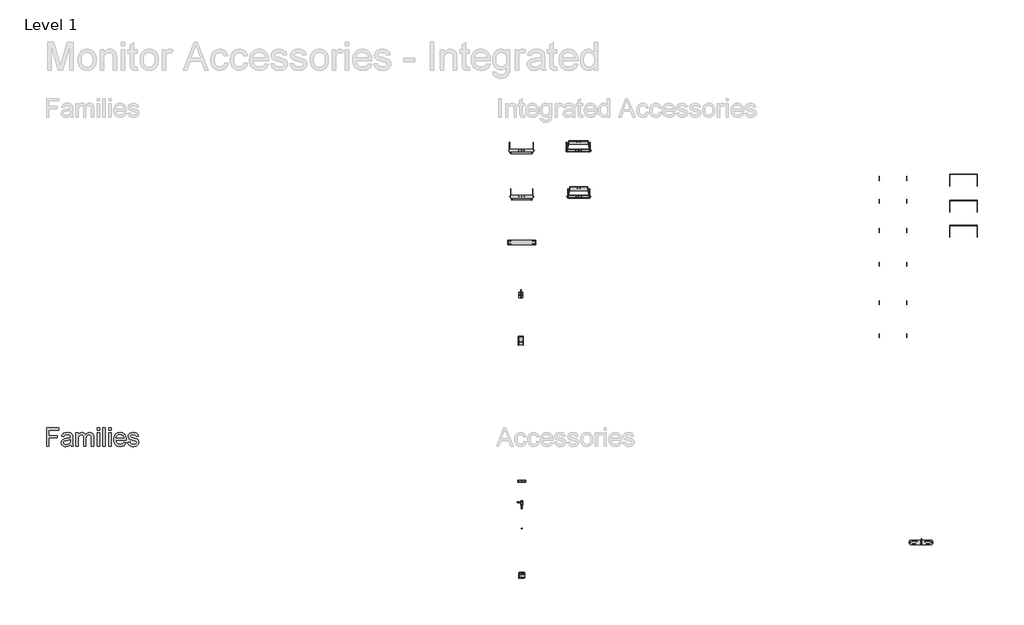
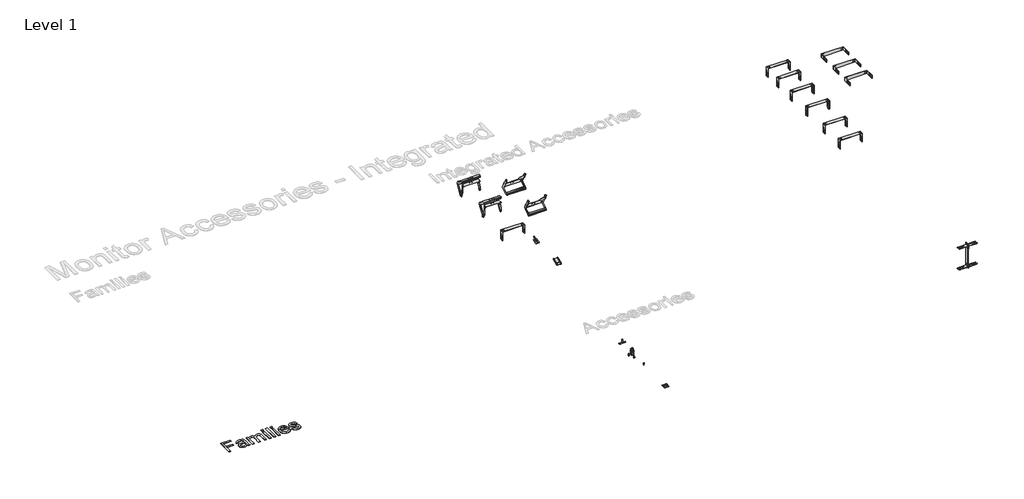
# One storey, part 1 of 7: 25 proxies.
"""IFC4 building model written with IfcOpenShell, lengths in millimetres."""

from ifc_helpers import new_model, si_unit, origin, origin_with_axes, place, context, project, spatial, polyline, outline, extrude, transform, mapped, element, save
from components import communication_devices_ba55d804, communication_devices_8cd92982, communication_devices_83826e61, communication_devices_d38580d4, communication_devices_43ad5a2a, communication_devices_95b38b16, communication_devices_d8b0c4f8, max_bracket_connector_1a2b8a25, max_bracket_connector_f8e35c88, max_horizontal_bracket_4bbb9378, max_horizontal_bracket_2c0e1940, pipe_clamp_9ec87b98, tv_spigot_w_fixing_plate_9e7657d5

model = new_model("IFC4")

# Units and contexts
model_context = context("Model", 3, world=origin())
ifc_project = project(units=[si_unit("LENGTHUNIT", "METRE", prefix="MILLI")], contexts=[model_context])

# Site, building, storey
site = spatial("IfcSite", under=ifc_project)
building = spatial("IfcBuilding", under=site)
storey = spatial("IfcBuildingStorey", under=building, Name="Level 1", Elevation=0.0)

# Proxies
placement = place(None, origin())
communication_devices_shape = communication_devices_ba55d804(model_context)
element("IfcBuildingElementProxy", 1, Name="d&b Flying Pin : Flying Pin", ObjectType="d&b Flying Pin : Flying Pin", at=placement, inside=storey, context=model_context, shape_type="MappedRepresentation", body=[
    mapped(communication_devices_shape, transform((-10953.7754647, 2106.5012301, 0.0), x_axis=(1.0, 0.0, 0.0), y_axis=(0.0, 1.0, 0.0), z_axis=(0.0, 0.0, 1.0))),
])
communication_devices_2_shape = communication_devices_8cd92982(model_context)
element("IfcBuildingElementProxy", 2, Name="d&b M-Series M4 Flying Bracket : M4 Flying Bracket", ObjectType="d&b M-Series M4 Flying Bracket : M4 Flying Bracket", at=placement, inside=storey, context=model_context, shape_type="MappedRepresentation", body=[
    mapped(communication_devices_2_shape, transform((-9749.2996804, 10140.2965291, -370.000001), x_axis=(1.0, 0.0, 0.0), y_axis=(0.0, 1.0, 0.0), z_axis=(0.0, 0.0, 1.0))),
])
communication_devices_3_shape = communication_devices_83826e61(model_context)
element("IfcBuildingElementProxy", 3, Name="d&b M-Series M4 Flying Bracket : M4 Flying Bracket", ObjectType="d&b M-Series M4 Flying Bracket : M4 Flying Bracket", at=placement, inside=storey, context=model_context, shape_type="MappedRepresentation", body=[
    mapped(communication_devices_3_shape, transform((-10961.4317147, 10140.2965291, -370.000001), x_axis=(1.0, 0.0, 0.0), y_axis=(0.0, 1.0, 0.0), z_axis=(0.0, 0.0, 1.0))),
])
communication_devices_4_shape = communication_devices_d38580d4(model_context)
element("IfcBuildingElementProxy", 4, Name="d&b M-Series M6 Flying Bracket : M6 Flying Bracket", ObjectType="d&b M-Series M6 Flying Bracket : M6 Flying Bracket", at=placement, inside=storey, context=model_context, shape_type="MappedRepresentation", body=[
    mapped(communication_devices_4_shape, transform((-9741.6434304, 9159.0465291, -370.000001), x_axis=(1.0, 0.0, 0.0), y_axis=(0.0, 1.0, 0.0), z_axis=(0.0, 0.0, 1.0))),
])
communication_devices_5_shape = communication_devices_43ad5a2a(model_context)
element("IfcBuildingElementProxy", 5, Name="d&b M-Series M6 Flying Bracket : M6 Flying Bracket", ObjectType="d&b M-Series M6 Flying Bracket : M6 Flying Bracket", at=placement, inside=storey, context=model_context, shape_type="MappedRepresentation", body=[
    mapped(communication_devices_5_shape, transform((-10953.7754647, 9159.0465291, -370.000001), x_axis=(1.0, 0.0, 0.0), y_axis=(0.0, 1.0, 0.0), z_axis=(0.0, 0.0, 1.0))),
])
communication_devices_6_shape = communication_devices_95b38b16(model_context)
element("IfcBuildingElementProxy", 6, Name="d&b M-Series Flying Adapter 02 : Flying Adapter 02", ObjectType="d&b M-Series Flying Adapter 02 : Flying Adapter 02", at=placement, inside=storey, context=model_context, shape_type="MappedRepresentation", body=[
    mapped(communication_devices_6_shape, transform((-10971.1156161, 7070.5731969, 483.3264101), x_axis=(-1.0, 0.0, 0.0), y_axis=(0.0, -0.9396926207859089, -0.3420201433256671), z_axis=(0.0, -0.3420201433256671, 0.9396926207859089))),
])
communication_devices_7_shape = communication_devices_d8b0c4f8(model_context)
element("IfcBuildingElementProxy", 7, Name="d&b M-Series Flying Adapter 03 : Flying Adapter 03", ObjectType="d&b M-Series Flying Adapter 03 : Flying Adapter 03", at=placement, inside=storey, context=model_context, shape_type="MappedRepresentation", body=[
    mapped(communication_devices_7_shape, transform((-10971.1156161, 6070.5731969, 483.3264101), x_axis=(-1.0, 0.0, 0.0), y_axis=(0.0, -0.9396926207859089, -0.3420201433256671), z_axis=(0.0, -0.3420201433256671, 0.9396926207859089))),
])
element("IfcBuildingElementProxy", 8, Name="400mm Arial", ObjectType="400mm Arial", at=placement, inside=storey, context=model_context, shape_type="SweptSolid", body=[
    extrude(outline(polyline([(-21056.720891, 3851.3054836), (-21056.720891, 4243.0630593), (-20793.5087698, 4243.0630593), (-20793.5087698, 4194.0933624), (-21007.7511941, 4194.0933624), (-21007.7511941, 4077.7903321), (-20824.1148304, 4077.7903321), (-20824.1148304, 4028.8206351), (-21007.7511941, 4028.8206351), (-21007.7511941, 3851.3054836), (-21056.720891, 3851.3054836)])), origin_with_axes(), (0.0, 0.0, 1.0), 5.0),
    extrude(outline(polyline([(-20548.660285, 3888.0327563), (-20572.0571836, 3867.97144), (-20596.1475009, 3854.8443093), (-20621.4811893, 3847.5992809), (-20648.6082016, 3845.1842715), (-20670.4120309, 3846.6368638), (-20689.5318522, 3850.9946408), (-20705.9676654, 3858.2576024), (-20719.7194706, 3868.4257487), (-20730.5780466, 3880.8534831), (-20738.3341723, 3894.895209), (-20742.9878477, 3910.5509263), (-20744.5390729, 3927.8206351), (-20742.1957963, 3948.1210612), (-20735.1659668, 3966.5564305), (-20724.3223352, 3982.3376805), (-20710.5376524, 3994.6757487), (-20676.2493001, 4010.7439305), (-20633.879035, 4018.1085139), (-20583.8094327, 4025.855673), (-20548.9472168, 4034.9418472), (-20548.660285, 4045.8452563), (-20552.0317338, 4067.6998965), (-20562.1460804, 4081.9986654), (-20584.7658721, 4092.6151427), (-20616.2805501, 4096.1539684), (-20645.4519516, 4093.7987364), (-20665.8241107, 4086.7330404), (-20679.7163929, 4073.6656872), (-20689.4481638, 4053.3054836), (-20738.4178607, 4059.4266957), (-20729.9175056, 4086.2069987), (-20717.2327282, 4107.2486654), (-20699.1799346, 4123.3407582), (-20674.5755312, 4135.2723396), (-20644.4835568, 4142.660834), (-20609.9680501, 4145.1236654), (-20576.8632916, 4142.9477658), (-20550.6209857, 4136.4200669), (-20530.8346458, 4126.6046076), (-20517.097785, 4114.5654268), (-20507.9876997, 4099.6808387), (-20502.0816865, 4081.3291578), (-20499.690588, 4038.480673), (-20499.690588, 3977.5554836), (-20497.2038456, 3892.4801995), (-20487.4481638, 3851.3054836), (-20536.4178607, 3851.3054836), (-20544.2606638, 3868.3301048), (-20548.660285, 3888.0327563)]), holes=[polyline([(-20548.660285, 3985.9721502), (-20581.5618001, 3977.8185044), (-20627.6621789, 3970.9560518), (-20669.7933342, 3963.0176048), (-20680.7565208, 3957.5898112), (-20688.8743001, 3950.105673), (-20693.8956069, 3941.1390536), (-20695.5693759, 3931.2638169), (-20691.9229507, 3916.7020271), (-20680.9836751, 3904.7704457), (-20662.990659, 3896.8080877), (-20638.1830122, 3894.1539684), (-20611.8809289, 3897.0830641), (-20588.6394516, 3905.870351), (-20569.7975956, 3918.8181493), (-20556.6943759, 3934.228779), (-20550.8840066, 3950.105673), (-20548.9472168, 3972.103779), (-20548.660285, 3985.9721502)])]), origin_with_axes(), (0.0, 0.0, 1.0), 5.0),
    extrude(outline(polyline([(-20432.3572547, 3851.3054836), (-20432.3572547, 4139.0024533), (-20383.3875577, 4139.0024533), (-20383.3875577, 4091.6587033), (-20368.658391, 4113.405744), (-20349.720891, 4130.4423207), (-20327.2206543, 4141.4533292), (-20301.8032774, 4145.1236654), (-20274.5686657, 4141.3815963), (-20252.7379365, 4130.1553889), (-20236.4306448, 4112.1862838), (-20225.7663456, 4088.2155215), (-20207.9167954, 4113.1128344), (-20187.5565918, 4130.8966294), (-20164.6857348, 4141.5669064), (-20139.3042244, 4145.1236654), (-20119.7002057, 4143.6441732), (-20102.4932632, 4139.2056966), (-20087.683397, 4131.8082357), (-20075.2706069, 4121.4517904), (-20065.4581365, 4108.0168058), (-20058.4492291, 4091.3837269), (-20054.2438846, 4071.5525539), (-20052.8421032, 4048.5232866), (-20052.8421032, 3851.3054836), (-20101.8118001, 3851.3054836), (-20101.8118001, 4027.4816199), (-20106.3548872, 4068.369404), (-20112.7391202, 4079.6434334), (-20122.8056448, 4088.5024533), (-20135.7534431, 4094.2410896), (-20150.7814971, 4096.1539684), (-20177.3107348, 4091.2522165), (-20198.9382206, 4076.5469608), (-20207.3279874, 4065.2669537), (-20213.320678, 4051.03394), (-20218.1148304, 4013.7088927), (-20218.1148304, 3851.3054836), (-20267.0845274, 3851.3054836), (-20267.0845274, 4032.9333245), (-20269.9179791, 4060.6222449), (-20278.4183342, 4080.3727184), (-20293.3746552, 4092.2086559), (-20315.5760047, 4096.1539684), (-20334.4417717, 4093.5237601), (-20351.8250577, 4085.6331351), (-20366.1716486, 4072.6733813), (-20375.9273304, 4054.8357866), (-20381.5225009, 4030.0879173), (-20383.3875577, 3996.3973396), (-20383.3875577, 3851.3054836), (-20432.3572547, 3851.3054836)])), origin_with_axes(), (0.0, 0.0, 1.0), 5.0),
    extrude(outline(polyline([(-19979.3875577, 3851.3054836), (-19979.3875577, 4139.0024533), (-19930.4178607, 4139.0024533), (-19930.4178607, 3851.3054836), (-19979.3875577, 3851.3054836)])), origin_with_axes(), (0.0, 0.0, 1.0), 5.0),
    extrude(outline(polyline([(-19979.3875577, 4194.0933624), (-19979.3875577, 4243.0630593), (-19930.4178607, 4243.0630593), (-19930.4178607, 4194.0933624), (-19979.3875577, 4194.0933624)])), origin_with_axes(), (0.0, 0.0, 1.0), 5.0),
    extrude(outline(polyline([(-19856.9633153, 3851.3054836), (-19856.9633153, 4243.0630593), (-19807.9936183, 4243.0630593), (-19807.9936183, 3851.3054836), (-19856.9633153, 3851.3054836)])), origin_with_axes(), (0.0, 0.0, 1.0), 5.0),
    extrude(outline(polyline([(-19734.5390729, 3851.3054836), (-19734.5390729, 4139.0024533), (-19685.5693759, 4139.0024533), (-19685.5693759, 3851.3054836), (-19734.5390729, 3851.3054836)])), origin_with_axes(), (0.0, 0.0, 1.0), 5.0),
    extrude(outline(polyline([(-19734.5390729, 4194.0933624), (-19734.5390729, 4243.0630593), (-19685.5693759, 4243.0630593), (-19685.5693759, 4194.0933624), (-19734.5390729, 4194.0933624)])), origin_with_axes(), (0.0, 0.0, 1.0), 5.0),
    extrude(outline(polyline([(-19410.6886941, 3937.0024533), (-19362.6754365, 3930.8812411), (-19370.0370309, 3911.6508316), (-19379.975034, 3894.7039211), (-19392.4894457, 3880.0405096), (-19407.580266, 3867.6605972), (-19425.0920736, 3857.8272047), (-19444.8694469, 3850.8033529), (-19491.220891, 3845.1842715), (-19521.605775, 3847.6082475), (-19548.6789876, 3854.8801758), (-19572.4405288, 3867.0000563), (-19592.8903986, 3883.9678889), (-19609.3351784, 3905.3114317), (-19621.0814497, 3930.5584429), (-19628.1292125, 3959.7089223), (-19630.4784668, 3992.7628699), (-19628.1053015, 4026.937645), (-19620.9858058, 4057.0595082), (-19609.1199796, 4083.1284594), (-19592.5078229, 4105.1444987), (-19572.1117528, 4122.6353841), (-19548.8941865, 4135.1288737), (-19522.855124, 4142.6249675), (-19493.9945653, 4145.1236654), (-19466.0635461, 4142.6309452), (-19440.8045795, 4135.1527847), (-19418.2176654, 4122.6891839), (-19398.3028039, 4105.2401427), (-19382.0463231, 4083.2719253), (-19370.4345511, 4057.2507961), (-19363.4674879, 4027.1767549), (-19361.1451335, 3993.0498018), (-19361.4320653, 3979.8509381), (-19581.5087698, 3979.8509381), (-19578.6723292, 3960.3096858), (-19573.0323257, 3943.1953983), (-19564.5887592, 3928.5080759), (-19553.3416297, 3916.2477184), (-19524.9234242, 3899.6774059), (-19490.2644516, 3894.1539684), (-19464.2014782, 3896.7124438), (-19442.2511941, 3904.3878699), (-19424.4135994, 3917.6584665), (-19410.6886941, 3937.0024533)]), holes=[polyline([(-19581.5087698, 4028.8206351), (-19410.1148304, 4028.8206351), (-19416.7381732, 4054.6923207), (-19429.721838, 4073.199423), (-19443.076123, 4083.2420366), (-19458.2715539, 4090.4153321), (-19494.1858532, 4096.1539684), (-19527.1949677, 4091.5750148), (-19554.4893569, 4077.838154), (-19573.4627234, 4056.4258671), (-19581.5087698, 4028.8206351)])]), origin_with_axes(), (0.0, 0.0, 1.0), 5.0),
    extrude(outline(polyline([(-19330.5390729, 3937.0024533), (-19281.5693759, 3943.1236654), (-19273.8461278, 3922.1776427), (-19258.9017622, 3906.7789684), (-19236.6406354, 3897.3102184), (-19206.9671032, 3894.1539684), (-19177.6522357, 3897.0471976), (-19157.0409668, 3905.7268851), (-19144.8463645, 3918.3040631), (-19140.7814971, 3932.8897639), (-19144.8702755, 3945.371298), (-19157.1366107, 3954.8878699), (-19207.5409668, 3968.8518851), (-19281.2824441, 3992.8106919), (-19299.9449677, 4004.8498728), (-19313.4666297, 4020.7865442), (-19321.680053, 4039.6044893), (-19324.4178607, 4060.2874911), (-19322.2180501, 4079.2608576), (-19315.6186183, 4096.775654), (-19305.2173399, 4112.1384618), (-19291.6119895, 4124.6558624), (-19260.4798872, 4139.1459192), (-19218.3487319, 4145.1236654), (-19186.4753891, 4142.7206114), (-19158.7625577, 4135.5114495), (-19136.4775198, 4124.2015536), (-19120.8875577, 4109.496298), (-19110.5580122, 4090.3077326), (-19104.0542244, 4065.5479078), (-19153.0239213, 4059.4266957), (-19159.2049109, 4074.8373254), (-19171.4353797, 4086.4461086), (-19189.8348825, 4093.7270035), (-19214.5229744, 4096.1539684), (-19242.6422925, 4093.8346029), (-19261.3885047, 4086.8765063), (-19271.933249, 4076.8338927), (-19275.4481638, 4065.260976), (-19269.6138835, 4051.010029), (-19251.345891, 4040.2022639), (-19209.1669138, 4029.7770745), (-19137.2904933, 4006.7268851), (-19118.3051713, 3995.7039211), (-19103.9107585, 3980.6160896), (-19094.8365397, 3961.4155688), (-19091.8118001, 3938.0545366), (-19095.3625814, 3913.9044419), (-19106.0149251, 3891.1890063), (-19123.3623446, 3871.6895982), (-19146.9983532, 3857.1875858), (-19175.5480691, 3848.1851), (-19207.6366107, 3845.1842715), (-19233.9924938, 3846.630886), (-19257.0127944, 3850.9707298), (-19276.6975127, 3858.2038027), (-19293.0466486, 3868.3301048), (-19306.4009336, 3881.3018141), (-19317.1010994, 3897.0711086), (-19325.1471458, 3915.6379883), (-19330.5390729, 3937.0024533)])), origin_with_axes(), (0.0, 0.0, 1.0), 5.0),
])
max_bracket_connector_shape = max_bracket_connector_1a2b8a25(model_context)
element("IfcBuildingElementProxy", 9, Name="d&b M-Series MAX Bracket Connector : MAX Bracket Connector", ObjectType="d&b M-Series MAX Bracket Connector : MAX Bracket Connector", at=placement, inside=storey, context=model_context, shape_type="MappedRepresentation", body=[
    mapped(max_bracket_connector_shape, transform((-10879.612112, 1106.5012301, 0.0), x_axis=(1.0, 0.0, 0.0), y_axis=(0.0, 1.0, 0.0), z_axis=(0.0, 0.0, 1.0))),
])
element("IfcBuildingElementProxy", 10, Name="d&b M-Series MAX Bracket Connector : MAX Bracket Connector", ObjectType="d&b M-Series MAX Bracket Connector : MAX Bracket Connector", at=placement, inside=storey, context=model_context, shape_type="MappedRepresentation", body=[
    mapped(max_bracket_connector_shape, transform((-2455.5070128, 1823.3924179, 485.3366473), x_axis=(0.0, 0.0, -1.0), y_axis=(0.0, 1.0, 0.0), z_axis=(1.0, 0.0, 0.0))),
])
max_bracket_connector_2_shape = max_bracket_connector_f8e35c88(model_context)
element("IfcBuildingElementProxy", 11, Name="d&b M-Series MAX Bracket Connector : MAX Bracket Connector", ObjectType="d&b M-Series MAX Bracket Connector : MAX Bracket Connector", at=placement, inside=storey, context=model_context, shape_type="MappedRepresentation", body=[
    mapped(max_bracket_connector_2_shape, transform((-2455.5070128, 1823.3924179, 94.6633527), x_axis=(0.0, 0.0, 1.0), y_axis=(0.0, -1.0, 0.0), z_axis=(1.0, 0.0, 0.0))),
])
max_horizontal_bracket_shape = max_horizontal_bracket_4bbb9378(model_context)
element("IfcBuildingElementProxy", 12, Name="d&b M-Series MAX Horizontal Bracket : MAX Horizontal Bracket", ObjectType="d&b M-Series MAX Horizontal Bracket : MAX Horizontal Bracket", at=placement, inside=storey, context=model_context, shape_type="MappedRepresentation", body=[
    mapped(max_horizontal_bracket_shape, transform((-2985.1139515, 9539.3567036, 992.3889388), x_axis=(1.0, 0.0, 0.0), y_axis=(0.0, 1.0, 0.0), z_axis=(0.0, 0.0, 1.0))),
])
element("IfcBuildingElementProxy", 13, Name="d&b M-Series MAX Horizontal Bracket : MAX Horizontal Bracket", ObjectType="d&b M-Series MAX Horizontal Bracket : MAX Horizontal Bracket", at=placement, inside=storey, context=model_context, shape_type="MappedRepresentation", body=[
    mapped(max_horizontal_bracket_shape, transform((-2985.1139515, 9055.1948325, 992.3889388), x_axis=(1.0, 0.0, 0.0), y_axis=(0.0, 1.0, 0.0), z_axis=(0.0, 0.0, 1.0))),
])
element("IfcBuildingElementProxy", 14, Name="d&b M-Series MAX Horizontal Bracket : MAX Horizontal Bracket", ObjectType="d&b M-Series MAX Horizontal Bracket : MAX Horizontal Bracket", at=placement, inside=storey, context=model_context, shape_type="MappedRepresentation", body=[
    mapped(max_horizontal_bracket_shape, transform((-2985.1139515, 8430.6015994, 992.3889388), x_axis=(1.0, 0.0, 0.0), y_axis=(0.0, 1.0, 0.0), z_axis=(0.0, 0.0, 1.0))),
])
element("IfcBuildingElementProxy", 15, Name="d&b M-Series MAX Horizontal Bracket : MAX Horizontal Bracket", ObjectType="d&b M-Series MAX Horizontal Bracket : MAX Horizontal Bracket", at=placement, inside=storey, context=model_context, shape_type="MappedRepresentation", body=[
    mapped(max_horizontal_bracket_shape, transform((-2985.1139515, 7713.8177505, 992.3889388), x_axis=(1.0, 0.0, 0.0), y_axis=(0.0, 1.0, 0.0), z_axis=(0.0, 0.0, 1.0))),
])
element("IfcBuildingElementProxy", 16, Name="d&b M-Series MAX Horizontal Bracket : MAX Horizontal Bracket", ObjectType="d&b M-Series MAX Horizontal Bracket : MAX Horizontal Bracket", at=placement, inside=storey, context=model_context, shape_type="MappedRepresentation", body=[
    mapped(max_horizontal_bracket_shape, transform((-2985.1139515, 6897.6477789, 992.3889388), x_axis=(1.0, 0.0, 0.0), y_axis=(0.0, 1.0, 0.0), z_axis=(0.0, 0.0, 1.0))),
])
element("IfcBuildingElementProxy", 17, Name="d&b M-Series MAX Horizontal Bracket : MAX Horizontal Bracket", ObjectType="d&b M-Series MAX Horizontal Bracket : MAX Horizontal Bracket", at=placement, inside=storey, context=model_context, shape_type="MappedRepresentation", body=[
    mapped(max_horizontal_bracket_shape, transform((-10879.612112, 8178.2274344, -41.5533632), x_axis=(1.0, 0.0, 0.0), y_axis=(0.0, 1.0, 0.0), z_axis=(0.0, 0.0, 1.0))),
])
element("IfcBuildingElementProxy", 18, Name="d&b M-Series MAX Horizontal Bracket : MAX Horizontal Bracket", ObjectType="d&b M-Series MAX Horizontal Bracket : MAX Horizontal Bracket", at=placement, inside=storey, context=model_context, shape_type="MappedRepresentation", body=[
    mapped(max_horizontal_bracket_shape, transform((-2985.1139515, 6192.5966183, 992.3889388), x_axis=(1.0, 0.0, 0.0), y_axis=(0.0, 1.0, 0.0), z_axis=(0.0, 0.0, 1.0))),
])
element("IfcBuildingElementProxy", 19, Name="d&b M-Series MAX Horizontal Bracket : MAX Horizontal Bracket", ObjectType="d&b M-Series MAX Horizontal Bracket : MAX Horizontal Bracket", at=placement, inside=storey, context=model_context, shape_type="MappedRepresentation", body=[
    mapped(max_horizontal_bracket_shape, transform((-2236.2845566, 1800.8534239, 364.1633527), x_axis=(0.0, 0.0, 1.0), y_axis=(0.0, 1.0, 0.0), z_axis=(-1.0, 0.0, 0.0))),
])
max_horizontal_bracket_2_shape = max_horizontal_bracket_2c0e1940(model_context)
element("IfcBuildingElementProxy", 20, Name="d&b M-Series MAX Horizontal Bracket : MAX Horizontal Bracket", ObjectType="d&b M-Series MAX Horizontal Bracket : MAX Horizontal Bracket", at=placement, inside=storey, context=model_context, shape_type="MappedRepresentation", body=[
    mapped(max_horizontal_bracket_2_shape, transform((-2694.729469, 1800.8534239, 364.1633527), x_axis=(0.0, 0.0, 1.0), y_axis=(0.0, -1.0, 0.0), z_axis=(1.0, 0.0, 0.0))),
])
element("IfcBuildingElementProxy", 21, Name="d&b M-Series MAX Horizontal Bracket : MAX Horizontal Bracket", ObjectType="d&b M-Series MAX Horizontal Bracket : MAX Horizontal Bracket", at=placement, inside=storey, context=model_context, shape_type="MappedRepresentation", body=[
    mapped(max_horizontal_bracket_2_shape, transform((-1633.4406569, 9401.9569788, 1001.6135554), x_axis=(-1.0, 0.0, 0.0), y_axis=(0.0, 0.0, 1.0), z_axis=(0.0, 1.0, 0.0))),
])
element("IfcBuildingElementProxy", 22, Name="d&b M-Series MAX Horizontal Bracket : MAX Horizontal Bracket", ObjectType="d&b M-Series MAX Horizontal Bracket : MAX Horizontal Bracket", at=placement, inside=storey, context=model_context, shape_type="MappedRepresentation", body=[
    mapped(max_horizontal_bracket_2_shape, transform((-1633.4406569, 8844.5685694, 1001.6135554), x_axis=(-1.0, 0.0, 0.0), y_axis=(0.0, 0.0, 1.0), z_axis=(0.0, 1.0, 0.0))),
])
element("IfcBuildingElementProxy", 23, Name="d&b M-Series MAX Horizontal Bracket : MAX Horizontal Bracket", ObjectType="d&b M-Series MAX Horizontal Bracket : MAX Horizontal Bracket", at=placement, inside=storey, context=model_context, shape_type="MappedRepresentation", body=[
    mapped(max_horizontal_bracket_2_shape, transform((-1633.4406569, 8309.6354535, 1001.6135554), x_axis=(-1.0, 0.0, 0.0), y_axis=(0.0, 0.0, 1.0), z_axis=(0.0, 1.0, 0.0))),
])
pipe_clamp_shape = pipe_clamp_9ec87b98(model_context)
element("IfcBuildingElementProxy", 24, Name="d&b Pipe Clamp : Pipe Clamp", ObjectType="d&b Pipe Clamp : Pipe Clamp", at=placement, inside=storey, context=model_context, shape_type="MappedRepresentation", body=[
    mapped(pipe_clamp_shape, transform((-10953.7754647, 2659.7589781, 0.0), x_axis=(1.0, 0.0, 0.0), y_axis=(0.0, 1.0, 0.0), z_axis=(0.0, 0.0, 1.0))),
])
tv_spigot_w_fixing_plate_shape = tv_spigot_w_fixing_plate_9e7657d5(model_context)
element("IfcBuildingElementProxy", 25, Name="d&b TV Spigot w Fixing Plate : TV Spigot w Fixing Plate", ObjectType="d&b TV Spigot w Fixing Plate : TV Spigot w Fixing Plate", at=placement, inside=storey, context=model_context, shape_type="MappedRepresentation", body=[
    mapped(tv_spigot_w_fixing_plate_shape, transform((-10953.7754647, 3106.5012301, 0.0), x_axis=(0.0, 1.0, 0.0), y_axis=(-1.0, 0.0, 0.0), z_axis=(0.0, 0.0, 1.0))),
])

save(model, "model.ifc")
